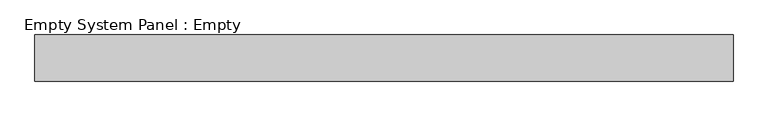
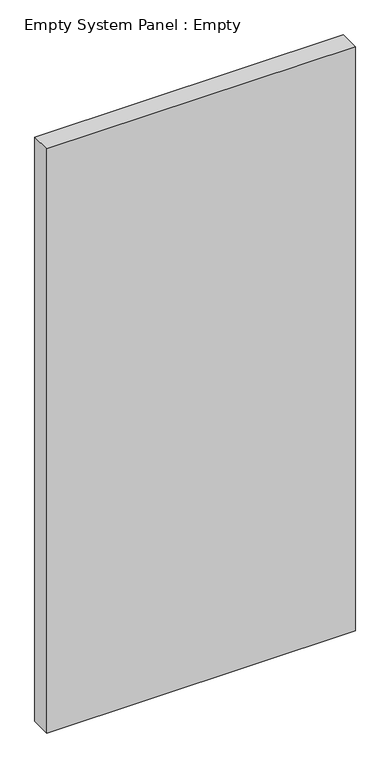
"""IFC4 building model written with IfcOpenShell, lengths in millimetres: plate geometry, Empty System Panel : Empty."""

import ifcopenshell
import ifcopenshell.guid

model = None  # the IFC model being written
_history = None  # IfcOwnerHistory: only IFC2X3 demands one
_inside = {}  # id of a spatial element -> (the spatial element, [elements in it])
_under = {}  # id of a project, library or spatial element -> (it, [spatial elements below it])
_declared = {}  # id of a project -> (the project, [libraries it declares])
_typed = {}  # id of a type object -> (the type object, [elements of that type])
_made_of = {}  # id of a material, layer set ... -> (it, [elements and type objects made of it])


def new_model(schema):
    """Start an empty IFC model of exactly this schema.

    Asked for "IFC4X3", IfcOpenShell would pick the latest addendum, in which some entities
    have other attributes; the version numbers below select the first issue.
    IFC2X3 requires an IfcOwnerHistory on every rooted entity: one is made here for all.
    """
    global model, _history
    if schema == "IFC4X3":
        model = ifcopenshell.file(schema_version=(4, 3, 0, 0))
    else:
        model = ifcopenshell.file(schema=schema)
    _inside.clear()
    _under.clear()
    _declared.clear()
    _typed.clear()
    _made_of.clear()
    _history = None
    if model.schema == "IFC2X3":
        org = make("IfcOrganization", Name="unknown")
        user = make(
            "IfcPersonAndOrganization",
            ThePerson=make("IfcPerson", FamilyName="unknown"),
            TheOrganization=org,
        )
        app = make(
            "IfcApplication",
            ApplicationDeveloper=org,
            Version="unknown",
            ApplicationFullName="unknown",
            ApplicationIdentifier="unknown",
        )
        _history = make(
            "IfcOwnerHistory",
            OwningUser=user,
            OwningApplication=app,
            ChangeAction="ADDED",
            CreationDate=0,
        )
    return model


def make(cls, **values):
    """One entity of the class cls with the attributes given. An attribute that is None is left unset."""
    return model.create_entity(
        cls, **{name: value for name, value in values.items() if value is not None}
    )


def rooted(cls, **values):
    """An entity with a GlobalId (a new one), such as an element, a storey or a relation."""
    return make(cls, GlobalId=ifcopenshell.guid.new(), OwnerHistory=_history, **values)


def si_unit(unit_type, name, prefix=None):
    """IfcSIUnit, for example si_unit("LENGTHUNIT", "METRE", prefix="MILLI")."""
    return make("IfcSIUnit", UnitType=unit_type, Prefix=prefix, Name=name)


def assignment(units):
    """IfcUnitAssignment: the units of a project."""
    return None if units is None else make("IfcUnitAssignment", Units=units)


def point(xyz):
    """IfcCartesianPoint."""
    return None if xyz is None else make("IfcCartesianPoint", Coordinates=xyz)


def direction(xyz):
    """IfcDirection."""
    return None if xyz is None else make("IfcDirection", DirectionRatios=xyz)


def frame(location, z_axis=None, x_axis=None):
    """IfcAxis2Placement3D, a coordinate frame: its origin and axes. An axis left out is left unset."""
    return make(
        "IfcAxis2Placement3D",
        Location=point(location),
        Axis=direction(z_axis),
        RefDirection=direction(x_axis),
    )


def origin():
    """The frame at (0, 0, 0) with its axes left unset."""
    return frame((0.0, 0.0, 0.0))


def origin_with_axes():
    """The frame at (0, 0, 0) with the z axis (0, 0, 1) and the x axis (1, 0, 0) written out."""
    return frame((0.0, 0.0, 0.0), z_axis=(0.0, 0.0, 1.0), x_axis=(1.0, 0.0, 0.0))


def place(relative_to, where):
    """IfcLocalPlacement: puts the frame where relative to a parent placement (None: the world)."""
    return make(
        "IfcLocalPlacement", PlacementRelTo=relative_to, RelativePlacement=where
    )


def context(
    kind, dimensions, precision=None, world=None, true_north=None, identifier=None
):
    """IfcGeometricRepresentationContext, for example the 3D "Model" context."""
    return make(
        "IfcGeometricRepresentationContext",
        ContextIdentifier=identifier,
        ContextType=kind,
        CoordinateSpaceDimension=dimensions,
        Precision=precision,
        WorldCoordinateSystem=world,
        TrueNorth=true_north,
    )


def project(units=None, contexts=None):
    """IfcProject with its units and contexts."""
    return rooted(
        "IfcProject",
        Name="project",
        RepresentationContexts=contexts,
        UnitsInContext=assignment(units),
    )


def spatial(cls, under=None, at=None, **own):
    """A site, building, storey or space (cls), placed at a placement, below another one or the project."""
    s = rooted(cls, ObjectPlacement=at, **own)
    if under is not None:
        _under.setdefault(under.id(), (under, []))[1].append(s)
    return s


def polyline(points):
    """IfcPolyline through the points."""
    return make("IfcPolyline", Points=[point(p) for p in points])


def outline(outer, holes=None, kind="AREA"):
    """IfcArbitraryClosedProfileDef: a profile drawn as a closed curve; with holes, ...WithVoids."""
    if holes is None:
        return make("IfcArbitraryClosedProfileDef", ProfileType=kind, OuterCurve=outer)
    return make(
        "IfcArbitraryProfileDefWithVoids",
        ProfileType=kind,
        OuterCurve=outer,
        InnerCurves=holes,
    )


def extrude(swept, where, along, depth):
    """IfcExtrudedAreaSolid: the profile swept, set in the frame where, extruded along a direction by depth."""
    return make(
        "IfcExtrudedAreaSolid",
        SweptArea=swept,
        Position=where,
        ExtrudedDirection=direction(along),
        Depth=depth,
    )


def shape(context_of_items, identifier, shape_type, items):
    """IfcShapeRepresentation: the items that make up one representation, for example the "Body"."""
    return make(
        "IfcShapeRepresentation",
        ContextOfItems=context_of_items,
        RepresentationIdentifier=identifier,
        RepresentationType=shape_type,
        Items=items,
    )


def source(mapping_origin, context_of_items, identifier, shape_type, items):
    """IfcRepresentationMap: a shape defined once, which mapped items show again and again."""
    return make(
        "IfcRepresentationMap",
        MappingOrigin=mapping_origin,
        MappedRepresentation=shape(context_of_items, identifier, shape_type, items),
    )


def transform(
    local_origin,
    x_axis=None,
    y_axis=None,
    z_axis=None,
    scale=None,
    scale2=None,
    scale3=None,
    uniform=True,
):
    """IfcCartesianTransformationOperator3D, or its non-uniform kind. x_axis, y_axis, z_axis: its Axis1, 2, 3."""
    if uniform:
        return make(
            "IfcCartesianTransformationOperator3D",
            Axis1=direction(x_axis),
            Axis2=direction(y_axis),
            LocalOrigin=point(local_origin),
            Scale=scale,
            Axis3=direction(z_axis),
        )
    return make(
        "IfcCartesianTransformationOperator3DnonUniform",
        Axis1=direction(x_axis),
        Axis2=direction(y_axis),
        LocalOrigin=point(local_origin),
        Scale=scale,
        Axis3=direction(z_axis),
        Scale2=scale2,
        Scale3=scale3,
    )


def mapped(mapping_source, mapping_target):
    """IfcMappedItem: shows the shape of a source again, moved by a transform."""
    return make(
        "IfcMappedItem", MappingSource=mapping_source, MappingTarget=mapping_target
    )


def made_of(thing, what):
    """Note that an element or type object is made of a material, layer set ...; save() writes the relation."""
    if what is not None:
        _made_of.setdefault(what.id(), (what, []))[1].append(thing)
    return thing


def element(
    cls,
    number,
    at=None,
    inside=None,
    cuts=None,
    type_object=None,
    material=None,
    context=None,
    identifier="Body",
    shape_type=None,
    held_by="IfcProductDefinitionShape",
    body=None,
    shapes=None,
    **own,
):
    """One element of the class cls, such as IfcWall. Its Tag is "e" and its number.

    at: its placement. inside: the storey or other place that contains it. cuts: it is an
    opening in that element (IfcRelVoidsElement). A single representation is given by context,
    identifier, shape_type and body (its items); several are given by shapes. held_by: the class
    of the entity that holds the representations. save() writes the other relations.
    """
    e = rooted(cls, Tag="e%d" % number, ObjectPlacement=at, **own)
    if body is not None:
        shapes = [shape(context, identifier, shape_type, body)]
    if shapes is not None:
        e.Representation = make(held_by, Representations=shapes)
    if inside is not None:
        _inside.setdefault(inside.id(), (inside, []))[1].append(e)
    if cuts is not None:
        rooted(
            "IfcRelVoidsElement", RelatingBuildingElement=cuts, RelatedOpeningElement=e
        )
    if type_object is not None:
        _typed.setdefault(type_object.id(), (type_object, []))[1].append(e)
    return made_of(e, material)


def aggregate(whole, parts):
    """IfcRelAggregates: a whole, such as a stair, and the parts it consists of."""
    return rooted("IfcRelAggregates", RelatingObject=whole, RelatedObjects=parts)


def save(model, path):
    """Write the relations noted so far, then the file.

    IfcRelAggregates (storeys below a building ...), IfcRelContainedInSpatialStructure (elements
    in a storey), IfcRelDefinesByType, IfcRelAssociatesMaterial and IfcRelDeclares: one each for
    every whole, place, type object, material and project.
    """
    for whole, parts in _under.values():
        aggregate(whole, parts)
    for where, things in _inside.values():
        rooted(
            "IfcRelContainedInSpatialStructure",
            RelatedElements=things,
            RelatingStructure=where,
        )
    for kind, things in _typed.values():
        rooted("IfcRelDefinesByType", RelatedObjects=things, RelatingType=kind)
    for what, things in _made_of.values():
        rooted("IfcRelAssociatesMaterial", RelatedObjects=things, RelatingMaterial=what)
    for by, libraries in _declared.values():
        rooted("IfcRelDeclares", RelatingContext=by, RelatedDefinitions=libraries)
    model.write(path)


def empty_system_panel_empty_4cf993bc(model_context):
    return source(origin(), model_context, "Body", "SweptSolid", [
        extrude(outline(polyline([(750.0000001, -50.0), (-750.0000001, -50.0), (-750.0000001, 50.0), (750.0000001, 50.0), (750.0000001, -50.0)])), origin_with_axes(), (0.0, 0.0, 1.0), 3000.0),
    ])


if __name__ == "__main__":
    model = new_model("IFC4")
    model_context = context("Model", 3, world=origin())
    ifc_project = project(units=[si_unit("LENGTHUNIT", "METRE", prefix="MILLI")], contexts=[model_context])
    site = spatial("IfcSite", under=ifc_project)
    building = spatial("IfcBuilding", under=site)
    placement = place(None, origin())
    empty_system_panel_empty_shape = empty_system_panel_empty_4cf993bc(model_context)
    element("IfcPlate", 1, ObjectType="Empty System Panel : Empty", at=placement, inside=building, context=model_context, shape_type="MappedRepresentation", body=[
        mapped(empty_system_panel_empty_shape, transform((0.0, 0.0, 0.0), x_axis=(1.0, 0.0, 0.0), y_axis=(0.0, 1.0, 0.0), z_axis=(0.0, 0.0, 1.0))),
    ])
    save(model, "model.ifc")
